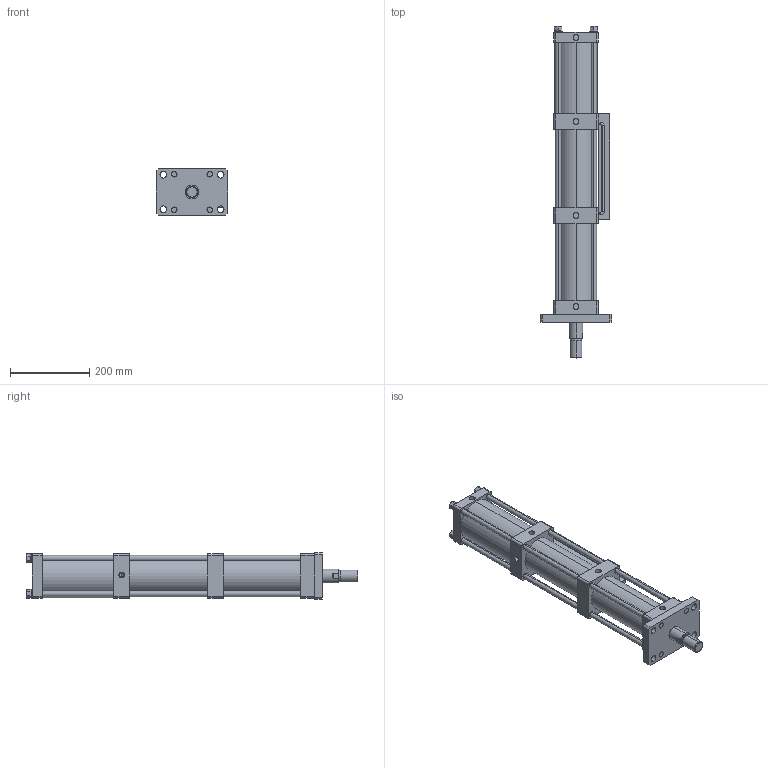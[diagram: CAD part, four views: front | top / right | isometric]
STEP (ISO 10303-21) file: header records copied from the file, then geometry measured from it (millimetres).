
FILE_DESCRIPTION (( 'STEP AP203' ), '1' );
FILE_NAME ('MPTF-80-150-10-5T.STEP', '2016-03-29T10:08:09', ( 'WIN' ), ( '' ), 'SwSTEP 2.0', 'SolidWorks 2014', '' );
FILE_SCHEMA (( 'CONFIG_CONTROL_DESIGN' ));
Length unit declared in the file: millimetre
Products named in the file (1): MPTF-80-150-10-5T
Bounding box: 180 x 840 x 118 mm (x, y, z)
Volume: 3585983.4 mm3; surface area: 715291.1 mm2
Topology: 5 solids, 5 shells, 266 faces, 632 edges, 413 vertices
Faces by surface type: cylinder 136, plane 120, cone 6, torus 4
Entity records: 7973 total; most frequent: DIRECTION 1448, CARTESIAN_POINT 1382, ORIENTED_EDGE 1260, EDGE_CURVE 630, AXIS2_PLACEMENT_3D 555, VERTEX_POINT 413, EDGE_LOOP 349, LINE 338
